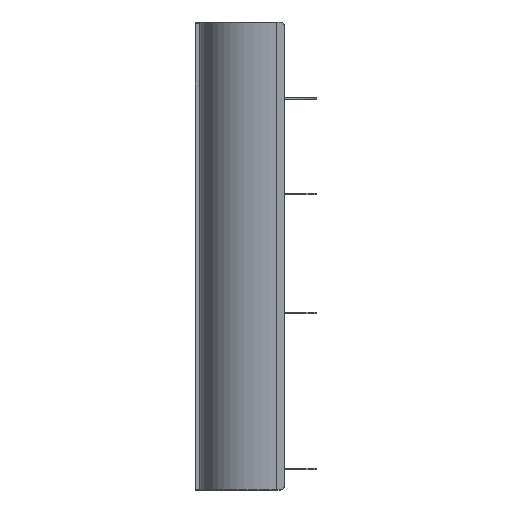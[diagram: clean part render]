
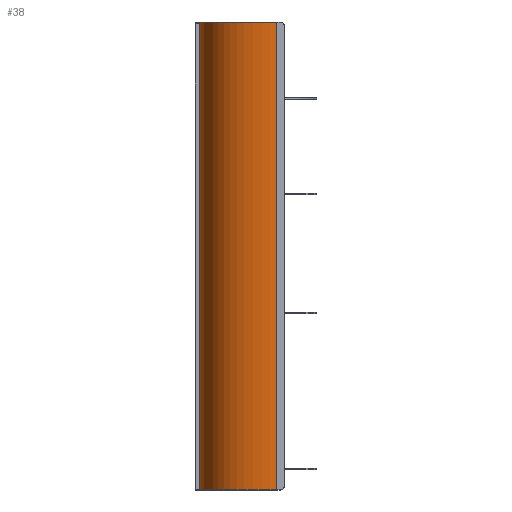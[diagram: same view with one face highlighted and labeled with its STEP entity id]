
A CAD part, left-side view. The second image highlights one B-rep face of the part: STEP entity #38.
In plain terms, the highlighted free-form (B-spline) face has degree [3, 1] with [4, 2] control points.
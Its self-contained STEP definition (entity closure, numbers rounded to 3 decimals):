
#38=ADVANCED_FACE('',(#196),#2184,.T.);
#196=FACE_OUTER_BOUND('',#354,.T.);
#354=EDGE_LOOP('',(#556,#557,#558,#559));
#556=ORIENTED_EDGE('',*,*,#1231,.F.);
#557=ORIENTED_EDGE('',*,*,#1235,.T.);
#558=ORIENTED_EDGE('',*,*,#1222,.T.);
#559=ORIENTED_EDGE('',*,*,#1234,.F.);
#1222=EDGE_CURVE('',#1898,#1929,#1785,.T.);
#1231=EDGE_CURVE('',#1935,#1934,#1789,.T.);
#1234=EDGE_CURVE('',#1934,#1929,#1790,.T.);
#1235=EDGE_CURVE('',#1935,#1898,#1791,.T.);
#1785=B_SPLINE_CURVE_WITH_KNOTS('',1,(#4879,#4880),.UNSPECIFIED.,.F.,.F.,
(2,2),(0.5,1199.5),.UNSPECIFIED.);
#1789=B_SPLINE_CURVE_WITH_KNOTS('',1,(#4903,#4904),.UNSPECIFIED.,.F.,.F.,
(2,2),(0.5,1199.5),.UNSPECIFIED.);
#1790=B_SPLINE_CURVE_WITH_KNOTS('',3,(#4909,#4910,#4911,#4912),
 .UNSPECIFIED.,.F.,.F.,(4,4),(0.,320.249),.UNSPECIFIED.);
#1791=B_SPLINE_CURVE_WITH_KNOTS('',3,(#4913,#4914,#4915,#4916),
 .UNSPECIFIED.,.F.,.F.,(4,4),(0.,320.249),.UNSPECIFIED.);
#1898=VERTEX_POINT('',#4761);
#1929=VERTEX_POINT('',#4792);
#1934=VERTEX_POINT('',#4797);
#1935=VERTEX_POINT('',#4798);
#2184=B_SPLINE_SURFACE_WITH_KNOTS('',3,1,((#2557,#2558),(#2559,#2560),(#2561,
#2562),(#2563,#2564)),.UNSPECIFIED.,.F.,.F.,.F.,(4,4),(2,2),(-168.102,
232.5),(0.,1200.),.UNSPECIFIED.);
#2557=CARTESIAN_POINT('',(-1894.,177.,500.));
#2558=CARTESIAN_POINT('',(-1894.,177.,1700.));
#2559=CARTESIAN_POINT('',(-2077.765,177.,500.));
#2560=CARTESIAN_POINT('',(-2077.765,177.,1700.));
#2561=CARTESIAN_POINT('',(-2094.,44.,500.));
#2562=CARTESIAN_POINT('',(-2094.,44.,1700.));
#2563=CARTESIAN_POINT('',(-2094.,-20.,500.));
#2564=CARTESIAN_POINT('',(-2094.,-20.,1700.));
#4761=CARTESIAN_POINT('',(-2094.,-20.,500.5));
#4792=CARTESIAN_POINT('',(-2094.,-20.,1699.5));
#4797=CARTESIAN_POINT('',(-1894.,177.,1699.5));
#4798=CARTESIAN_POINT('',(-1894.,177.,500.5));
#4879=CARTESIAN_POINT('',(-2094.,-20.,500.5));
#4880=CARTESIAN_POINT('',(-2094.,-20.,1699.5));
#4903=CARTESIAN_POINT('',(-1894.,177.,500.5));
#4904=CARTESIAN_POINT('',(-1894.,177.,1699.5));
#4909=CARTESIAN_POINT('',(-1894.,177.,1699.5));
#4910=CARTESIAN_POINT('',(-2077.765,177.,1699.5));
#4911=CARTESIAN_POINT('',(-2094.,44.,1699.5));
#4912=CARTESIAN_POINT('',(-2094.,-20.,1699.5));
#4913=CARTESIAN_POINT('',(-1894.,177.,500.5));
#4914=CARTESIAN_POINT('',(-2077.765,177.,500.5));
#4915=CARTESIAN_POINT('',(-2094.,44.,500.5));
#4916=CARTESIAN_POINT('',(-2094.,-20.,500.5));
